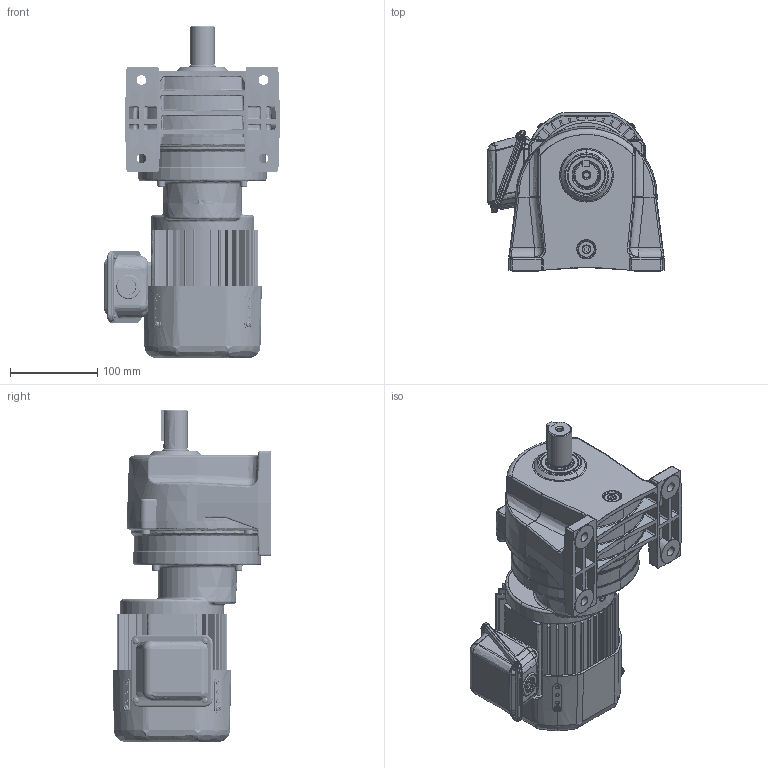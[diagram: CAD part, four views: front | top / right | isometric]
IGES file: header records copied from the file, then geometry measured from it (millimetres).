
Start section: SolidWorks IGES file using analytic representation for surfaces
Global section: file name: \\100.100.100.8\1_共有作業フォルダ\1-5_３Ｄデータ\solidworks\personal-folder\H.Nagayama\SGP1外形\P1(3D)\igs\TMLB2-01-(300~450).IGS; native system: SolidWorks 2018; preprocessor: SolidWorks 2018; author: sigma-giken; date: 200512.114027; units: millimetre
Bounding box: 202.13 x 182.03 x 380.6 mm (x, y, z)
Surface area: 541954.7 mm2 (no closed solid volume)
Topology: 0 solids, 0 shells, 2088 faces, 26704 edges, 26655 vertices
Faces by surface type: bspline 1127, revolution 961
